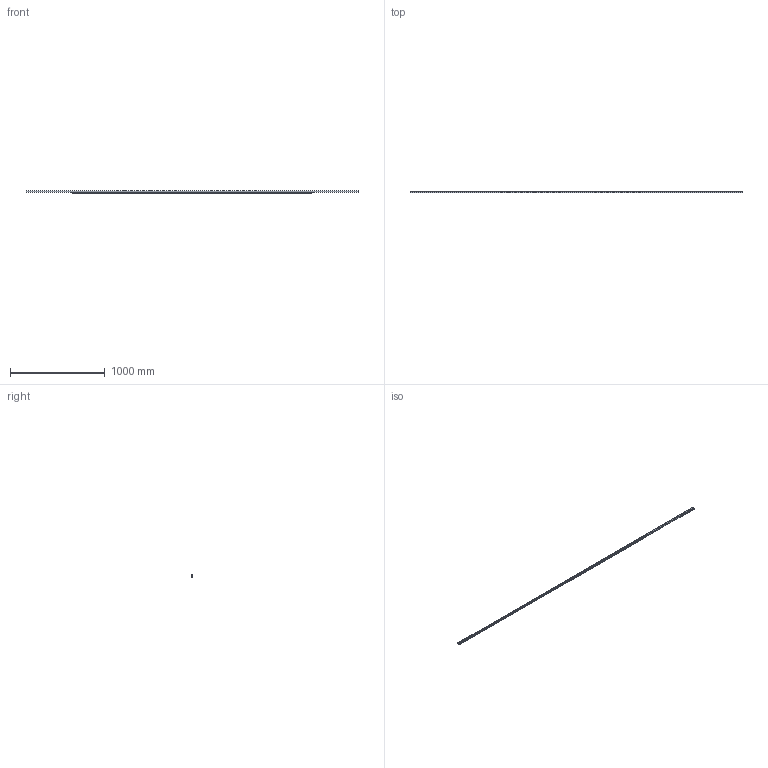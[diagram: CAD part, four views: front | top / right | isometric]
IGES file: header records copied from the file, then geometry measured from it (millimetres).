
Start section: Data from Parasolid IGES Translator 15.0.47, Copyright(c) 2006 Siemens P LM Software. All Rights Reserved.
Global section: file name: 9113498.igs; native system:  By UGS Corp.; preprocessor: XPlus GENERIC/IGES 3.0; author: Noname; organization: Noname; date: 20140122.175828; units: millimetre
Bounding box: 3500 x 20 x 25 mm (x, y, z)
Surface area: 359746.8 mm2 (no closed solid volume)
Topology: 0 solids, 0 shells, 37 faces, 204 edges, 204 vertices
Faces by surface type: extrusion 27, revolution 10
